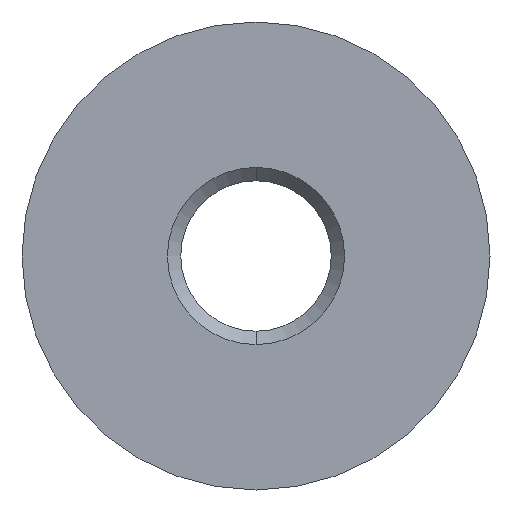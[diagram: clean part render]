
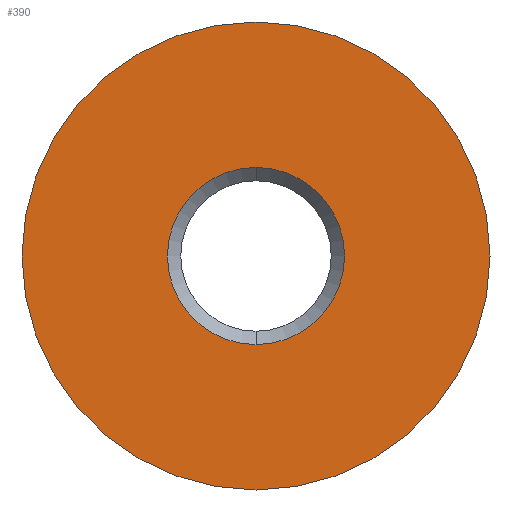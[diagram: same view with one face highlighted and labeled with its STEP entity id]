
A CAD part, front view. The second image highlights one B-rep face of the part: STEP entity #390.
In plain terms, the highlighted planar face has unit normal (0, -1, 0).
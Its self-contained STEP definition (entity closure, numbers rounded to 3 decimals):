
#16 = CIRCLE ( 'NONE', #132, 2.65 ) ;
#24 = CIRCLE ( 'NONE', #81, 2.65 ) ;
#35 = AXIS2_PLACEMENT_3D ( 'NONE', #67, #58, #54 ) ;
#54 = DIRECTION ( 'NONE',  ( 0., 0., 1. ) ) ;
#58 = DIRECTION ( 'NONE',  ( 0., 1., 0. ) ) ;
#62 = CARTESIAN_POINT ( 'NONE',  ( 0., -5., -7. ) ) ;
#67 = CARTESIAN_POINT ( 'NONE',  ( -2.65, -5., 0. ) ) ;
#72 = EDGE_CURVE ( 'NONE', #318, #213, #183, .T. ) ;
#81 = AXIS2_PLACEMENT_3D ( 'NONE', #190, #182, #174 ) ;
#86 = CIRCLE ( 'NONE', #166, 7. ) ;
#95 = PLANE ( 'NONE',  #35 ) ;
#125 = FACE_BOUND ( 'NONE', #311, .T. ) ;
#132 = AXIS2_PLACEMENT_3D ( 'NONE', #240, #149, #223 ) ;
#149 = DIRECTION ( 'NONE',  ( 0., -1., 0. ) ) ;
#166 = AXIS2_PLACEMENT_3D ( 'NONE', #317, #314, #310 ) ;
#174 = DIRECTION ( 'NONE',  ( 0., 0., -1. ) ) ;
#182 = DIRECTION ( 'NONE',  ( 0., -1., 0. ) ) ;
#183 = CIRCLE ( 'NONE', #300, 7. ) ;
#190 = CARTESIAN_POINT ( 'NONE',  ( 0., -5., 0. ) ) ;
#213 = VERTEX_POINT ( 'NONE', #62 ) ;
#223 = DIRECTION ( 'NONE',  ( 0., 0., -1. ) ) ;
#240 = CARTESIAN_POINT ( 'NONE',  ( 0., -5., 0. ) ) ;
#258 = VERTEX_POINT ( 'NONE', #365 ) ;
#264 = EDGE_CURVE ( 'NONE', #213, #318, #86, .T. ) ;
#267 = ORIENTED_EDGE ( 'NONE', *, *, #304, .F. ) ;
#268 = EDGE_LOOP ( 'NONE', ( #280, #291 ) ) ;
#270 = CARTESIAN_POINT ( 'NONE',  ( 0., -5., -2.65 ) ) ;
#280 = ORIENTED_EDGE ( 'NONE', *, *, #264, .T. ) ;
#291 = ORIENTED_EDGE ( 'NONE', *, *, #72, .T. ) ;
#300 = AXIS2_PLACEMENT_3D ( 'NONE', #342, #382, #380 ) ;
#301 = VERTEX_POINT ( 'NONE', #270 ) ;
#302 = CARTESIAN_POINT ( 'NONE',  ( 0., -5., 7. ) ) ;
#304 = EDGE_CURVE ( 'NONE', #301, #258, #16, .T. ) ;
#310 = DIRECTION ( 'NONE',  ( 0., 0., -1. ) ) ;
#311 = EDGE_LOOP ( 'NONE', ( #267, #334 ) ) ;
#314 = DIRECTION ( 'NONE',  ( 0., -1., 0. ) ) ;
#317 = CARTESIAN_POINT ( 'NONE',  ( 0., -5., 0. ) ) ;
#318 = VERTEX_POINT ( 'NONE', #302 ) ;
#327 = EDGE_CURVE ( 'NONE', #258, #301, #24, .T. ) ;
#334 = ORIENTED_EDGE ( 'NONE', *, *, #327, .F. ) ;
#342 = CARTESIAN_POINT ( 'NONE',  ( 0., -5., 0. ) ) ;
#365 = CARTESIAN_POINT ( 'NONE',  ( 0., -5., 2.65 ) ) ;
#375 = FACE_OUTER_BOUND ( 'NONE', #268, .T. ) ;
#380 = DIRECTION ( 'NONE',  ( 0., 0., -1. ) ) ;
#382 = DIRECTION ( 'NONE',  ( 0., -1., 0. ) ) ;
#390 = ADVANCED_FACE ( 'NONE', ( #125, #375 ), #95, .F. ) ;
